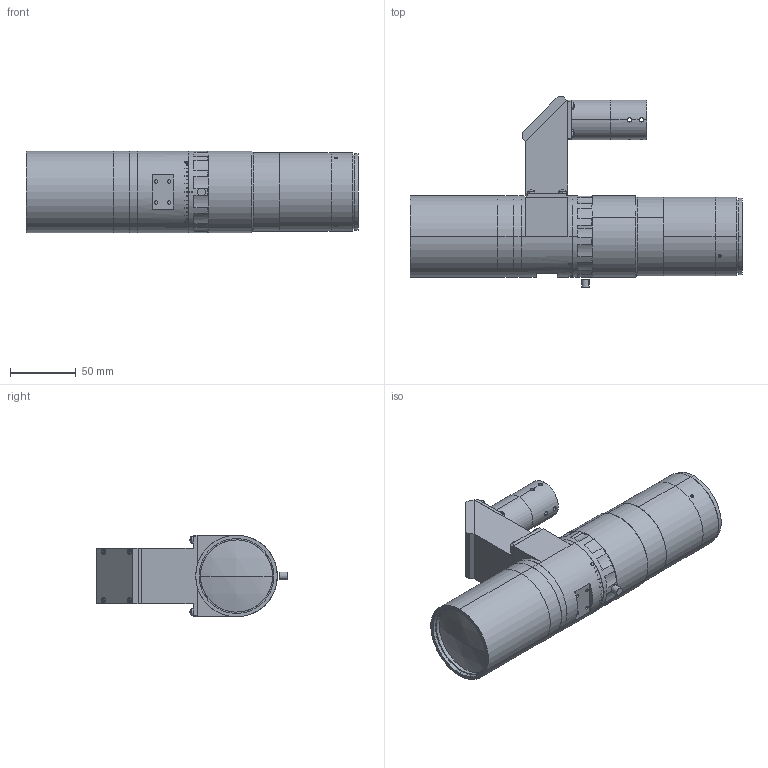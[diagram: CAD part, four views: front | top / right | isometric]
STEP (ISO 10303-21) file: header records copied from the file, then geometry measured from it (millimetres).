
FILE_DESCRIPTION (( 'STEP AP203' ), '1' );
FILE_NAME ('XF-MDT1.5X110DZMC-D38-VI-M58-11.48.STEP', '2023-10-30T02:15:16', ( '' ), ( '' ), 'SwSTEP 2.0', 'SolidWorks 2022', '' );
FILE_SCHEMA (( 'CONFIG_CONTROL_DESIGN' ));
Length unit declared in the file: millimetre
Products named in the file (1): XF-MDT1.5X110DZMC-D38-VI-M58-11.48
Bounding box: 252.56 x 144.7 x 62 mm (x, y, z)
Surface area: 87687.6 mm2 (no closed solid volume)
Topology: 0 solids, 37 shells, 345 faces, 1255 edges, 890 vertices
Faces by surface type: plane 166, cylinder 130, cone 28, sphere 20, bspline 1
Entity records: 15862 total; most frequent: CARTESIAN_POINT 5099, DIRECTION 2353, ORIENTED_EDGE 1922, EDGE_CURVE 1251, VERTEX_POINT 890, AXIS2_PLACEMENT_3D 890, VECTOR 573, LINE 573
